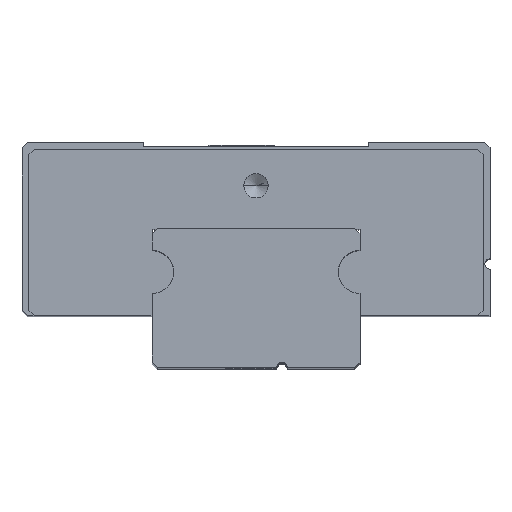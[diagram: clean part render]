
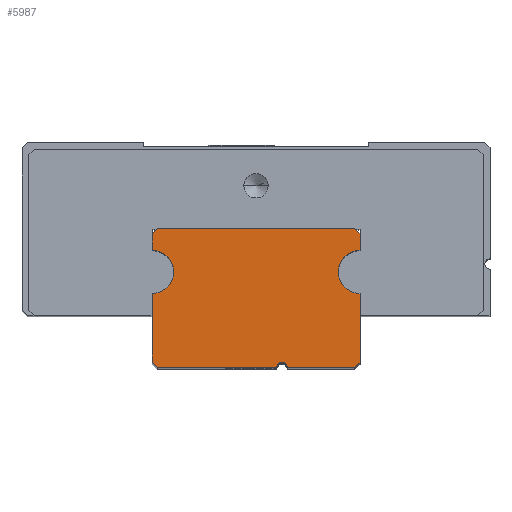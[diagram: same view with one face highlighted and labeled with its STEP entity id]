
A CAD part, top view. The second image highlights one B-rep face of the part: STEP entity #5987.
In plain terms, the highlighted planar face has unit normal (0, 0, 1).
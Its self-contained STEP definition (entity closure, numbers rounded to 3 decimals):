
#77 = AXIS2_PLACEMENT_3D ( 'NONE', #5191, #678, #2486 ) ;
#96 = AXIS2_PLACEMENT_3D ( 'NONE', #1484, #6760, #6005 ) ;
#186 = CARTESIAN_POINT ( 'NONE',  ( 1.5, 0., 35. ) ) ;
#244 = CARTESIAN_POINT ( 'NONE',  ( 6., 7.7, 35. ) ) ;
#307 = LINE ( 'NONE', #10276, #6502 ) ;
#383 = ORIENTED_EDGE ( 'NONE', *, *, #1372, .T. ) ;
#403 = CARTESIAN_POINT ( 'NONE',  ( 6., 6.75, 35. ) ) ;
#521 = LINE ( 'NONE', #1281, #7090 ) ;
#532 = EDGE_CURVE ( 'NONE', #6725, #8242, #521, .T. ) ;
#600 = VERTEX_POINT ( 'NONE', #4984 ) ;
#678 = DIRECTION ( 'NONE',  ( 0., 0., 1. ) ) ;
#1012 = VERTEX_POINT ( 'NONE', #8459 ) ;
#1068 = VERTEX_POINT ( 'NONE', #2551 ) ;
#1212 = ORIENTED_EDGE ( 'NONE', *, *, #3376, .F. ) ;
#1281 = CARTESIAN_POINT ( 'NONE',  ( 6., 0., 35. ) ) ;
#1372 = EDGE_CURVE ( 'NONE', #1012, #600, #2131, .T. ) ;
#1446 = CARTESIAN_POINT ( 'NONE',  ( 1.5, 0., 35. ) ) ;
#1484 = CARTESIAN_POINT ( 'NONE',  ( -6., 5.5, 35. ) ) ;
#1534 = VECTOR ( 'NONE', #10079, 1000. ) ;
#1674 = EDGE_CURVE ( 'NONE', #1012, #9358, #307, .T. ) ;
#1722 = ORIENTED_EDGE ( 'NONE', *, *, #5283, .F. ) ;
#1896 = VERTEX_POINT ( 'NONE', #7493 ) ;
#2014 = ORIENTED_EDGE ( 'NONE', *, *, #7628, .T. ) ;
#2131 = LINE ( 'NONE', #4793, #1534 ) ;
#2221 = DIRECTION ( 'NONE',  ( -0.707, 0.707, 0. ) ) ;
#2272 = ORIENTED_EDGE ( 'NONE', *, *, #9854, .T. ) ;
#2385 = EDGE_CURVE ( 'NONE', #6725, #7589, #9302, .T. ) ;
#2434 = ORIENTED_EDGE ( 'NONE', *, *, #2385, .T. ) ;
#2486 = DIRECTION ( 'NONE',  ( -1., 0., 0. ) ) ;
#2510 = ORIENTED_EDGE ( 'NONE', *, *, #4639, .F. ) ;
#2551 = CARTESIAN_POINT ( 'NONE',  ( 1.2, 0., 35. ) ) ;
#2747 = VECTOR ( 'NONE', #6211, 1000. ) ;
#2861 = AXIS2_PLACEMENT_3D ( 'NONE', #5509, #4644, #9777 ) ;
#2879 = CARTESIAN_POINT ( 'NONE',  ( 1.5, 0., 35. ) ) ;
#2966 = EDGE_CURVE ( 'NONE', #1068, #600, #10246, .T. ) ;
#3059 = EDGE_CURVE ( 'NONE', #1896, #7437, #5261, .T. ) ;
#3137 = AXIS2_PLACEMENT_3D ( 'NONE', #186, #9948, #10678 ) ;
#3266 = CARTESIAN_POINT ( 'NONE',  ( -5.7, 8., 35. ) ) ;
#3376 = EDGE_CURVE ( 'NONE', #6326, #4483, #4715, .T. ) ;
#3742 = ORIENTED_EDGE ( 'NONE', *, *, #9639, .T. ) ;
#3920 = DIRECTION ( 'NONE',  ( -1., 0., 0. ) ) ;
#3955 = CARTESIAN_POINT ( 'NONE',  ( 6., 4.25, 35. ) ) ;
#4483 = VERTEX_POINT ( 'NONE', #10207 ) ;
#4639 = EDGE_CURVE ( 'NONE', #7437, #5615, #9877, .T. ) ;
#4644 = DIRECTION ( 'NONE',  ( 0., 0., 1. ) ) ;
#4677 = ORIENTED_EDGE ( 'NONE', *, *, #1674, .F. ) ;
#4715 = LINE ( 'NONE', #10906, #7658 ) ;
#4793 = CARTESIAN_POINT ( 'NONE',  ( -5.7, 0., 35. ) ) ;
#4802 = VECTOR ( 'NONE', #6891, 1000. ) ;
#4812 = DIRECTION ( 'NONE',  ( 0., -1., 0. ) ) ;
#4984 = CARTESIAN_POINT ( 'NONE',  ( -5.7, 0., 35. ) ) ;
#5106 = ORIENTED_EDGE ( 'NONE', *, *, #10308, .T. ) ;
#5191 = CARTESIAN_POINT ( 'NONE',  ( 6., 5.5, 35. ) ) ;
#5192 = CARTESIAN_POINT ( 'NONE',  ( 5.7, 0., 35. ) ) ;
#5261 = CIRCLE ( 'NONE', #77, 1.25 ) ;
#5283 = EDGE_CURVE ( 'NONE', #7830, #6367, #7134, .T. ) ;
#5373 = EDGE_LOOP ( 'NONE', ( #4677, #383, #5801, #2272, #1212, #2014, #2510, #7249, #10988, #7383, #2434, #3742, #5106, #1722, #9605 ) ) ;
#5452 = DIRECTION ( 'NONE',  ( 0., -1., 0. ) ) ;
#5457 = LINE ( 'NONE', #10724, #9021 ) ;
#5509 = CARTESIAN_POINT ( 'NONE',  ( 6., 5.5, 35. ) ) ;
#5615 = VERTEX_POINT ( 'NONE', #6257 ) ;
#5801 = ORIENTED_EDGE ( 'NONE', *, *, #2966, .F. ) ;
#5887 = CARTESIAN_POINT ( 'NONE',  ( 6., 8., 35. ) ) ;
#5987 = ADVANCED_FACE ( 'NONE', ( #6343 ), #10629, .F. ) ;
#6005 = DIRECTION ( 'NONE',  ( -1., 0., 0. ) ) ;
#6211 = DIRECTION ( 'NONE',  ( 0., 1., 0. ) ) ;
#6257 = CARTESIAN_POINT ( 'NONE',  ( 6., 0.3, 35. ) ) ;
#6286 = CARTESIAN_POINT ( 'NONE',  ( 6., 0., 35. ) ) ;
#6326 = VERTEX_POINT ( 'NONE', #5192 ) ;
#6343 = FACE_OUTER_BOUND ( 'NONE', #5373, .T. ) ;
#6367 = VERTEX_POINT ( 'NONE', #8987 ) ;
#6502 = VECTOR ( 'NONE', #10168, 1000. ) ;
#6725 = VERTEX_POINT ( 'NONE', #244 ) ;
#6760 = DIRECTION ( 'NONE',  ( 0., 0., 1. ) ) ;
#6801 = CARTESIAN_POINT ( 'NONE',  ( 5.7, 8., 35. ) ) ;
#6891 = DIRECTION ( 'NONE',  ( -0.707, -0.707, 0. ) ) ;
#7016 = CARTESIAN_POINT ( 'NONE',  ( -6., 0., 35. ) ) ;
#7059 = VERTEX_POINT ( 'NONE', #3266 ) ;
#7090 = VECTOR ( 'NONE', #4812, 1000. ) ;
#7134 = LINE ( 'NONE', #7016, #2747 ) ;
#7249 = ORIENTED_EDGE ( 'NONE', *, *, #3059, .F. ) ;
#7383 = ORIENTED_EDGE ( 'NONE', *, *, #532, .F. ) ;
#7403 = VECTOR ( 'NONE', #5452, 1000. ) ;
#7437 = VERTEX_POINT ( 'NONE', #3955 ) ;
#7486 = CIRCLE ( 'NONE', #10793, 0.3 ) ;
#7493 = CARTESIAN_POINT ( 'NONE',  ( 4.75, 5.5, 35. ) ) ;
#7589 = VERTEX_POINT ( 'NONE', #6801 ) ;
#7592 = CARTESIAN_POINT ( 'NONE',  ( -6., 4.25, 35. ) ) ;
#7628 = EDGE_CURVE ( 'NONE', #6326, #5615, #5457, .T. ) ;
#7648 = LINE ( 'NONE', #11056, #4802 ) ;
#7658 = VECTOR ( 'NONE', #9304, 1000. ) ;
#7830 = VERTEX_POINT ( 'NONE', #9922 ) ;
#8194 = EDGE_CURVE ( 'NONE', #8242, #1896, #9905, .T. ) ;
#8242 = VERTEX_POINT ( 'NONE', #403 ) ;
#8459 = CARTESIAN_POINT ( 'NONE',  ( -6., 0.3, 35. ) ) ;
#8614 = VECTOR ( 'NONE', #10298, 1000. ) ;
#8640 = CIRCLE ( 'NONE', #96, 1.25 ) ;
#8848 = EDGE_CURVE ( 'NONE', #9358, #7830, #8640, .T. ) ;
#8963 = VECTOR ( 'NONE', #2221, 1000. ) ;
#8987 = CARTESIAN_POINT ( 'NONE',  ( -6., 7.7, 35. ) ) ;
#9021 = VECTOR ( 'NONE', #10621, 1000. ) ;
#9094 = DIRECTION ( 'NONE',  ( -1., 0., 0. ) ) ;
#9264 = DIRECTION ( 'NONE',  ( 0., 0., -1. ) ) ;
#9302 = LINE ( 'NONE', #9535, #8963 ) ;
#9304 = DIRECTION ( 'NONE',  ( -1., 0., 0. ) ) ;
#9358 = VERTEX_POINT ( 'NONE', #7592 ) ;
#9535 = CARTESIAN_POINT ( 'NONE',  ( 5.7, 8., 35. ) ) ;
#9605 = ORIENTED_EDGE ( 'NONE', *, *, #8848, .F. ) ;
#9624 = LINE ( 'NONE', #5887, #8614 ) ;
#9639 = EDGE_CURVE ( 'NONE', #7589, #7059, #9624, .T. ) ;
#9777 = DIRECTION ( 'NONE',  ( -1., 0., 0. ) ) ;
#9854 = EDGE_CURVE ( 'NONE', #1068, #4483, #7486, .T. ) ;
#9877 = LINE ( 'NONE', #6286, #7403 ) ;
#9905 = CIRCLE ( 'NONE', #2861, 1.25 ) ;
#9907 = VECTOR ( 'NONE', #3920, 1000. ) ;
#9922 = CARTESIAN_POINT ( 'NONE',  ( -6., 6.75, 35. ) ) ;
#9948 = DIRECTION ( 'NONE',  ( 0., 0., -1. ) ) ;
#10079 = DIRECTION ( 'NONE',  ( 0.707, -0.707, 0. ) ) ;
#10168 = DIRECTION ( 'NONE',  ( 0., 1., 0. ) ) ;
#10207 = CARTESIAN_POINT ( 'NONE',  ( 1.8, 0., 35. ) ) ;
#10246 = LINE ( 'NONE', #1446, #9907 ) ;
#10276 = CARTESIAN_POINT ( 'NONE',  ( -6., 0., 35. ) ) ;
#10298 = DIRECTION ( 'NONE',  ( -1., 0., 0. ) ) ;
#10308 = EDGE_CURVE ( 'NONE', #7059, #6367, #7648, .T. ) ;
#10621 = DIRECTION ( 'NONE',  ( 0.707, 0.707, 0. ) ) ;
#10629 = PLANE ( 'NONE',  #3137 ) ;
#10678 = DIRECTION ( 'NONE',  ( 0., -1., 0. ) ) ;
#10724 = CARTESIAN_POINT ( 'NONE',  ( 6., 0.3, 35. ) ) ;
#10793 = AXIS2_PLACEMENT_3D ( 'NONE', #2879, #9264, #9094 ) ;
#10906 = CARTESIAN_POINT ( 'NONE',  ( 1.5, 0., 35. ) ) ;
#10988 = ORIENTED_EDGE ( 'NONE', *, *, #8194, .F. ) ;
#11056 = CARTESIAN_POINT ( 'NONE',  ( -6., 7.7, 35. ) ) ;
